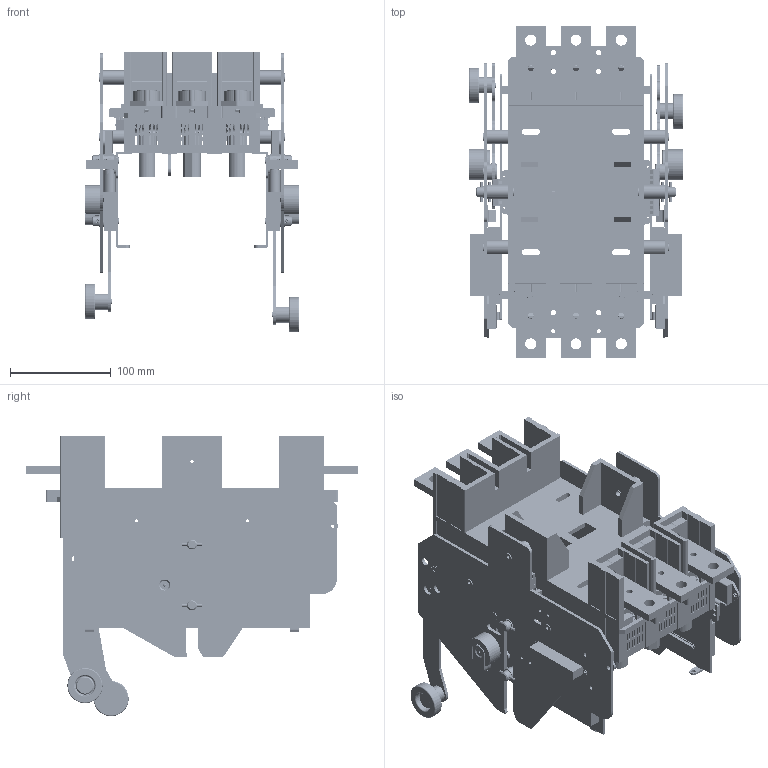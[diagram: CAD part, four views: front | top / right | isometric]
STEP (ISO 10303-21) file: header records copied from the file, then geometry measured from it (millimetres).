
FILE_DESCRIPTION (( 'STEP AP203' ), '1' );
FILE_NAME ('NDM5-400 630 ³é³öÊ½-°åÇ°.STEP', '2024-09-26T03:54:58', ( 'A' ), ( '' ), 'SwSTEP 2.0', 'SolidWorks 2018', '' );
FILE_SCHEMA (( 'CONFIG_CONTROL_DESIGN' ));
Length unit declared in the file: millimetre
Products named in the file (1): NDM5-400 630 喲堤宒-啣ヶ-∼__∼-______
Bounding box: 213 x 330 x 278.64 mm (x, y, z)
Volume: 1619961.6 mm3; surface area: 890905.4 mm2
Topology: 211 solids, 211 shells, 7847 faces, 21117 edges, 13884 vertices
Faces by surface type: plane 4195, cylinder 3352, torus 110, cone 100, bspline 86, sphere 4
Entity records: 254880 total; most frequent: CARTESIAN_POINT 51005, DIRECTION 43423, ORIENTED_EDGE 42218, EDGE_CURVE 21109, AXIS2_PLACEMENT_3D 14838, VERTEX_POINT 13884, LINE 13747, VECTOR 13747
